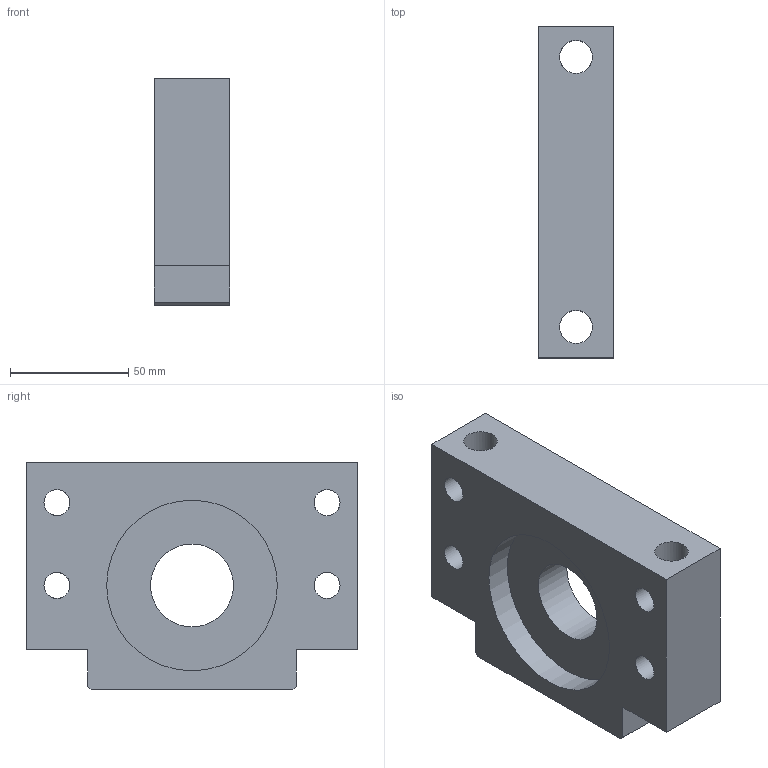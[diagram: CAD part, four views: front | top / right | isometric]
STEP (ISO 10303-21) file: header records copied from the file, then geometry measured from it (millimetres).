
FILE_DESCRIPTION(/* description */ (''),/* implementation_level */ '2;1');
FILE_NAME(/* name */ 'BF35.stp',/* time_stamp */ '2018-11-16T11:29:29+08:00',/* author */ (''),/* organization */ (''),/* preprocessor_version */ 'ST-DEVELOPER v14',/* originating_system */ 'SIEMENS PLM Software NX 8.0',/* authorisation */ '');
FILE_SCHEMA (('AUTOMOTIVE_DESIGN { 1 0 10303 214 3 1 1 1 }'));
Length unit declared in the file: millimetre
Products named in the file (3): 7207; BF35-A; BF35
Assembly tree (2 placements, depth 2):
  BF35
    BF35-A
    7207
Bounding box: 32 x 140 x 96 mm (x, y, z)
Volume: 288516.4 mm3; surface area: 59247.5 mm2
Topology: 2 solids, 2 shells, 31 faces, 92 edges, 63 vertices
Faces by surface type: plane 16, cylinder 15
Full cylindrical faces by diameter (mm): 11 x8, 14 x2, 20 x2, 35 x1, 72 x2
Entity records: 1072 total; most frequent: CARTESIAN_POINT 280, DIRECTION 142, ORIENTED_EDGE 120, EDGE_LOOP 72, FACE_BOUND 65, EDGE_CURVE 60, AXIS2_PLACEMENT_3D 56, VERTEX_POINT 50
